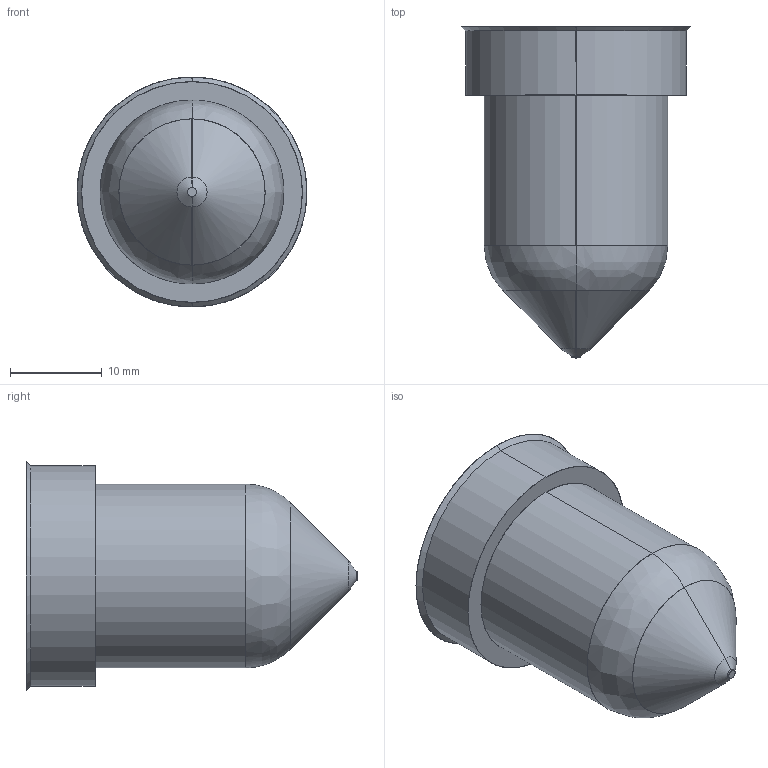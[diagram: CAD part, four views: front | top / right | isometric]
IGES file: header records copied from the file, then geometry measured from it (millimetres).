
Start section: SolidWorks IGES file using analytic representation for surfaces
Global section: file name: C:\Documents and Settings\ws-20\Desktop\TEM\Sede UGGS2510-M-0 C-36 L-68 Ød-1.0.IGS; native system: SolidWorks 2012; preprocessor: SolidWorks 2012; author: ws-20; date: 120516.093805; units: millimetre
Bounding box: 25 x 36.08 x 25 mm (x, y, z)
Surface area: 2837.9 mm2 (no closed solid volume)
Topology: 0 solids, 0 shells, 17 faces, 168 edges, 168 vertices
Faces by surface type: revolution 12, bspline 5
